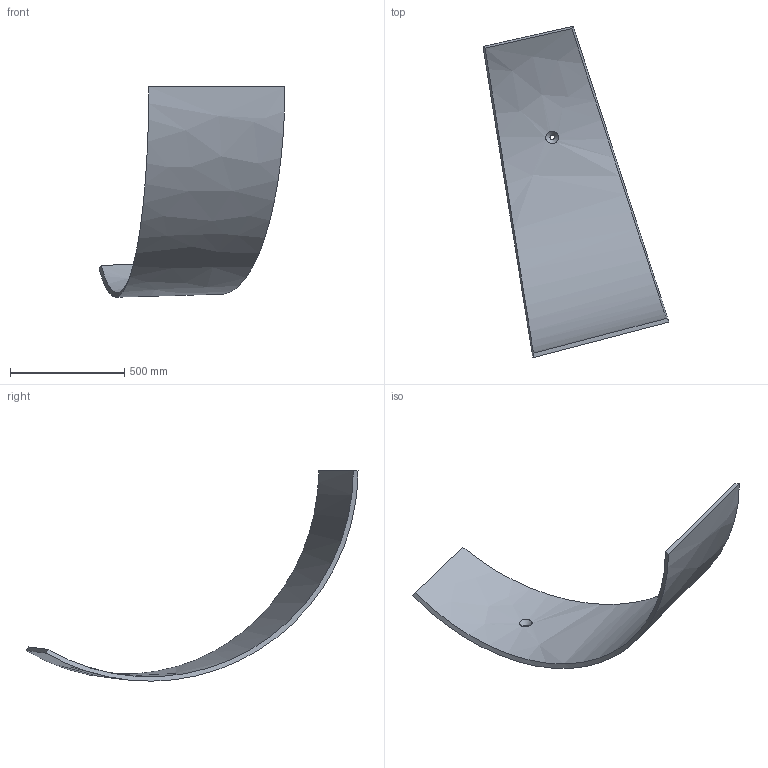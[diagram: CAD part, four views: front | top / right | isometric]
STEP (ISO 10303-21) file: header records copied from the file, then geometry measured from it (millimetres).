
FILE_DESCRIPTION (( 'STEP AP214' ), '1' );
FILE_NAME ('P12.2Mirror.STEP', '2025-01-09T19:43:25', ( '' ), ( '' ), 'SwSTEP 2.0', 'SolidWorks 2024', '' );
FILE_SCHEMA (( 'AUTOMOTIVE_DESIGN' ));
Length unit declared in the file: inch
Products named in the file (1): P12.2Mirror
Bounding box: 814.1 x 1453.12 x 920.7 mm (x, y, z)
Volume: 18818019.3 mm3; surface area: 2087659.8 mm2
Topology: 1 solids, 1 shells, 8 faces, 18 edges, 12 vertices
Faces by surface type: bspline 7, cylinder 1
Full cylindrical faces by diameter (mm): 19.447 x1
Entity records: 3013 total; most frequent: CARTESIAN_POINT 2865, ORIENTED_EDGE 30, EDGE_CURVE 15, B_SPLINE_CURVE_WITH_KNOTS 15, EDGE_LOOP 12, VERTEX_POINT 11, FACE_OUTER_BOUND 10, ADVANCED_FACE 8
